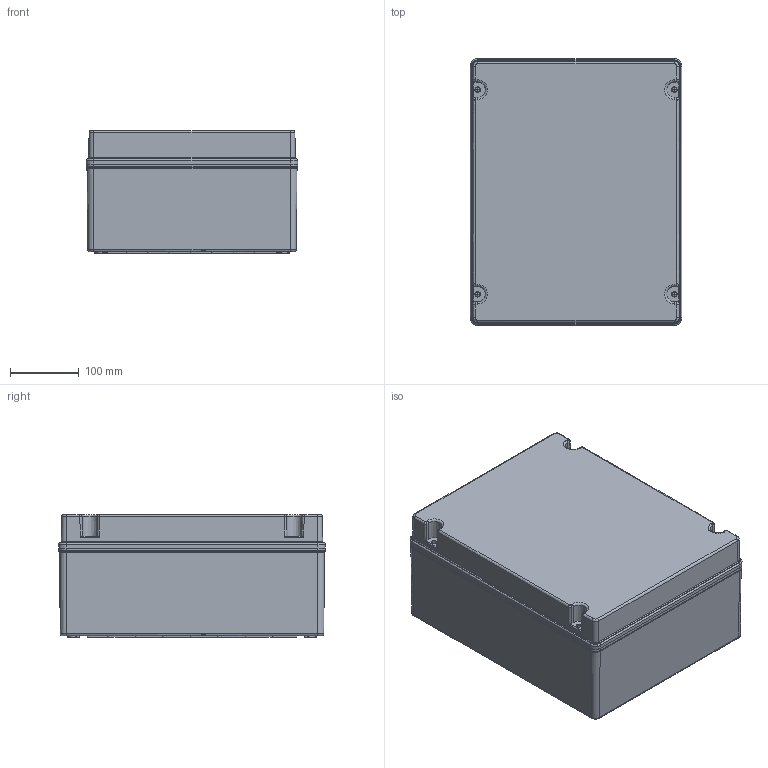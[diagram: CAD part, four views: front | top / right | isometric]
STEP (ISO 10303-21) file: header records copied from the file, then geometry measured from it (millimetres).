
FILE_DESCRIPTION(/* description */ (''),/* implementation_level */ '2;1');
FILE_NAME(/* name */ '4003396.stp',/* time_stamp */ '2020-07-23T08:11:53+02:00',/* author */ (''),/* organization */ (''),/* preprocessor_version */ 'ST-DEVELOPER v16.7',/* originating_system */ 'SIEMENS PLM Software NX 1926',/* authorisation */ '');
FILE_SCHEMA (('AUTOMOTIVE_DESIGN { 1 0 10303 214 3 1 1 1 }'));
Products named in the file (1): RGGM3404467Fwrvp
Bounding box: 308.4 x 388.4 x 179 mm (x, y, z)
Volume: 1458098.4 mm3; surface area: 1115694.6 mm2
Topology: 6 solids, 6 shells, 1686 faces, 4374 edges, 2836 vertices
Faces by surface type: plane 806, cone 376, cylinder 280, bspline 166, torus 46, sphere 12
Full cylindrical faces by diameter (mm): 2.4 x8, 2.8 x2, 3.2 x4, 3.4 x4, 3.5 x8, 4 x4, 5.9 x12, 7 x4, 7.5 x4, 8 x4, 10 x2
Entity records: 63127 total; most frequent: CARTESIAN_POINT 24223, ORIENTED_EDGE 8164, DIRECTION 7565, EDGE_CURVE 4082, AXIS2_PLACEMENT_3D 2747, VERTEX_POINT 2728, LINE 2071, VECTOR 2071
